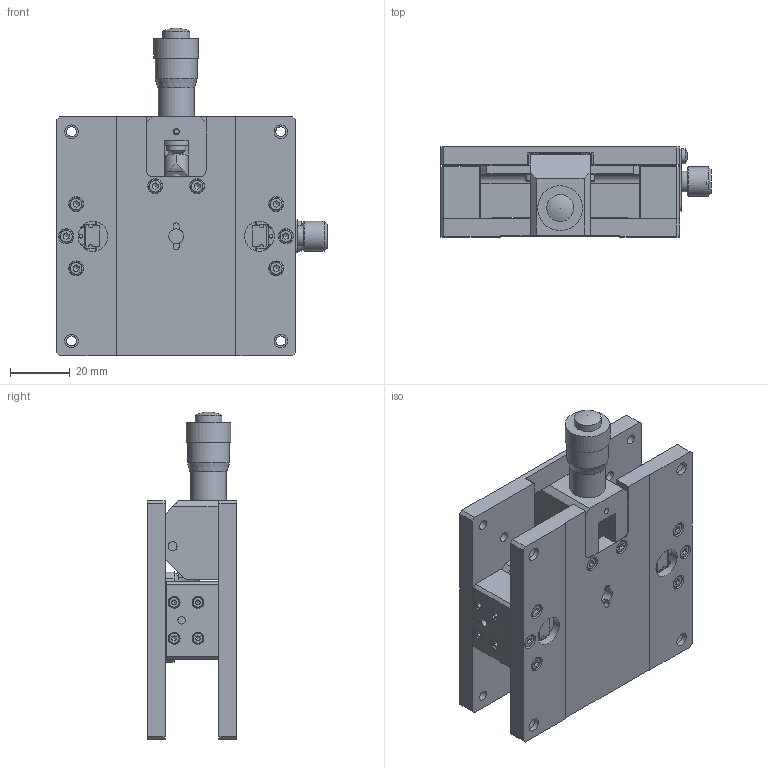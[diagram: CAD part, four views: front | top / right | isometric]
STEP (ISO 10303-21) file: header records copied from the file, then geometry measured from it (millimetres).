
FILE_DESCRIPTION (( 'STEP AP203' ), '1' );
FILE_NAME ('BLBZ80.STEP', '2024-07-08T06:28:12', ( 'Windows User' ), ( 'P R C' ), 'SwSTEP 2.0', 'SolidWorks 2024', '' );
FILE_SCHEMA (( 'CONFIG_CONTROL_DESIGN' ));
Length unit declared in the file: millimetre
Products named in the file (1): BLBZ80
Bounding box: 90.6 x 30 x 109.65 mm (x, y, z)
Volume: 107505.9 mm3; surface area: 60131.8 mm2
Topology: 48 solids, 48 shells, 1386 faces, 3360 edges, 2159 vertices
Faces by surface type: plane 886, cylinder 347, cone 96, torus 32, bspline 21, sphere 4
Full cylindrical faces by diameter (mm): 1.2 x4, 1.567 x8, 1.6 x4, 2 x11, 2.05 x14, 2.4 x12, 2.5 x25, 2.9 x10, 2.95 x9, 3 x8, 3.3 x8, 3.4 x4, 3.8 x11, 4 x10, 4.2 x4, 4.5 x12, 5 x11, 5.5 x4, 6 x5, 6.3 x1, 6.35 x3, 7 x1, 8 x4, 8.5 x1, 9 x1, 9.5 x2, 10 x3, 12 x1, 13.6 x1, 14 x1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
Entity records: 42048 total; most frequent: CARTESIAN_POINT 10797, DIRECTION 6484, ORIENTED_EDGE 5900, EDGE_CURVE 2950, AXIS2_PLACEMENT_3D 2298, VERTEX_POINT 2068, EDGE_LOOP 1904, LINE 1888
